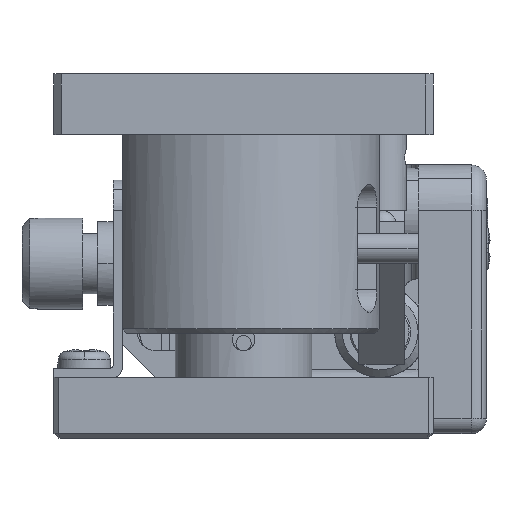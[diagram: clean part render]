
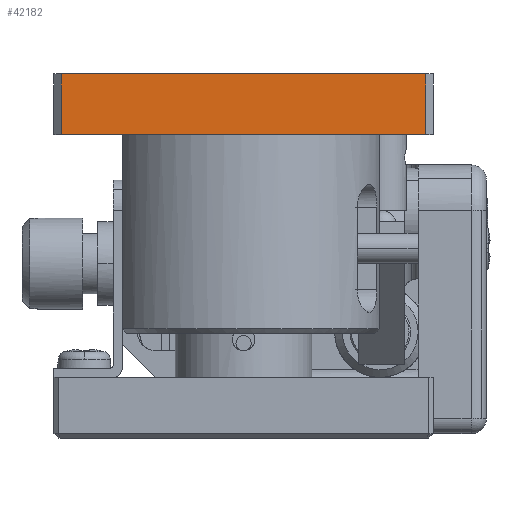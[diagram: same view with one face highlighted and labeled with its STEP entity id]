
A CAD part, left-side view. The second image highlights one B-rep face of the part: STEP entity #42182.
In plain terms, the highlighted planar face has unit normal (-1, 0, 0).
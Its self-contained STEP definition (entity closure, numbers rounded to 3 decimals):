
#124 = FACE_OUTER_BOUND ( 'NONE', #10567, .T. ) ;
#248 = CARTESIAN_POINT ( 'NONE',  ( -12.5, -4., 0. ) ) ;
#2759 = CARTESIAN_POINT ( 'NONE',  ( -12.5, -12., -1.333 ) ) ;
#3396 = CARTESIAN_POINT ( 'NONE',  ( -12.5, -4., -4. ) ) ;
#3609 = CARTESIAN_POINT ( 'NONE',  ( -12.5, 12., -4. ) ) ;
#6867 = B_SPLINE_CURVE_WITH_KNOTS ( 'NONE', 3,
 ( #38665, #2759, #29012, #32516 ),
 .UNSPECIFIED., .F., .F.,
 ( 4, 4 ),
 ( 0., 1. ),
 .UNSPECIFIED. ) ;
#7289 = B_SPLINE_CURVE_WITH_KNOTS ( 'NONE', 3,
 ( #32155, #22283, #28861, #25785 ),
 .UNSPECIFIED., .F., .F.,
 ( 4, 4 ),
 ( 0., 1. ),
 .UNSPECIFIED. ) ;
#7458 = CARTESIAN_POINT ( 'NONE',  ( -12.5, -12., 0. ) ) ;
#9864 = VERTEX_POINT ( 'NONE', #39911 ) ;
#10418 = B_SPLINE_CURVE_WITH_KNOTS ( 'NONE', 3,
 ( #3609, #29874, #3396, #36868 ),
 .UNSPECIFIED., .F., .F.,
 ( 4, 4 ),
 ( 0., 1. ),
 .UNSPECIFIED. ) ;
#10567 = EDGE_LOOP ( 'NONE', ( #27957, #13319, #28190, #22379 ) ) ;
#13319 = ORIENTED_EDGE ( 'NONE', *, *, #26935, .T. ) ;
#14256 = CARTESIAN_POINT ( 'NONE',  ( -12.5, 12., 0. ) ) ;
#16294 = EDGE_CURVE ( 'NONE', #20756, #42648, #6867, .T. ) ;
#18765 = VERTEX_POINT ( 'NONE', #14256 ) ;
#19246 = CARTESIAN_POINT ( 'NONE',  ( -12.5, -12., 0. ) ) ;
#20245 = DIRECTION ( 'NONE',  ( -1., 0., 0. ) ) ;
#20756 = VERTEX_POINT ( 'NONE', #19246 ) ;
#22283 = CARTESIAN_POINT ( 'NONE',  ( -12.5, 12., -1.333 ) ) ;
#22379 = ORIENTED_EDGE ( 'NONE', *, *, #28506, .T. ) ;
#23308 = CARTESIAN_POINT ( 'NONE',  ( -12.5, 12.5, 0. ) ) ;
#24684 = EDGE_CURVE ( 'NONE', #18765, #9864, #7289, .T. ) ;
#24981 = B_SPLINE_CURVE_WITH_KNOTS ( 'NONE', 3,
 ( #7458, #248, #40094, #37207 ),
 .UNSPECIFIED., .F., .F.,
 ( 4, 4 ),
 ( 0., 1. ),
 .UNSPECIFIED. ) ;
#25785 = CARTESIAN_POINT ( 'NONE',  ( -12.5, 12., -4. ) ) ;
#26935 = EDGE_CURVE ( 'NONE', #9864, #42648, #10418, .T. ) ;
#27854 = CARTESIAN_POINT ( 'NONE',  ( -12.5, -12., -4. ) ) ;
#27957 = ORIENTED_EDGE ( 'NONE', *, *, #24684, .T. ) ;
#28190 = ORIENTED_EDGE ( 'NONE', *, *, #16294, .F. ) ;
#28506 = EDGE_CURVE ( 'NONE', #20756, #18765, #24981, .T. ) ;
#28861 = CARTESIAN_POINT ( 'NONE',  ( -12.5, 12., -2.667 ) ) ;
#29012 = CARTESIAN_POINT ( 'NONE',  ( -12.5, -12., -2.667 ) ) ;
#29874 = CARTESIAN_POINT ( 'NONE',  ( -12.5, 4., -4. ) ) ;
#29880 = DIRECTION ( 'NONE',  ( 0., 0., 1. ) ) ;
#30297 = PLANE ( 'NONE',  #38369 ) ;
#32155 = CARTESIAN_POINT ( 'NONE',  ( -12.5, 12., 0. ) ) ;
#32516 = CARTESIAN_POINT ( 'NONE',  ( -12.5, -12., -4. ) ) ;
#36868 = CARTESIAN_POINT ( 'NONE',  ( -12.5, -12., -4. ) ) ;
#37207 = CARTESIAN_POINT ( 'NONE',  ( -12.5, 12., 0. ) ) ;
#38369 = AXIS2_PLACEMENT_3D ( 'NONE', #23308, #20245, #29880 ) ;
#38665 = CARTESIAN_POINT ( 'NONE',  ( -12.5, -12., 0. ) ) ;
#39911 = CARTESIAN_POINT ( 'NONE',  ( -12.5, 12., -4. ) ) ;
#40094 = CARTESIAN_POINT ( 'NONE',  ( -12.5, 4., 0. ) ) ;
#42182 = ADVANCED_FACE ( 'NONE', ( #124 ), #30297, .T. ) ;
#42648 = VERTEX_POINT ( 'NONE', #27854 ) ;
